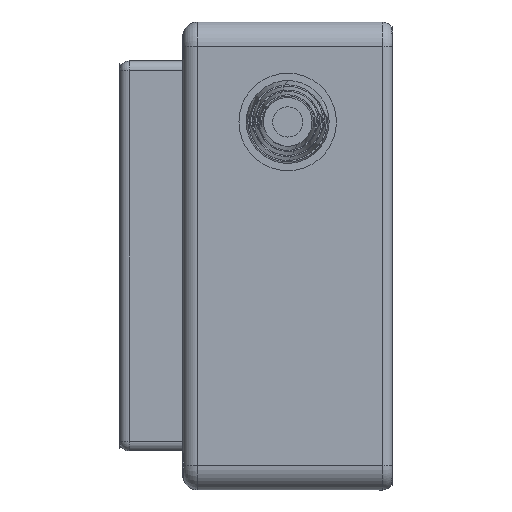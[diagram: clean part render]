
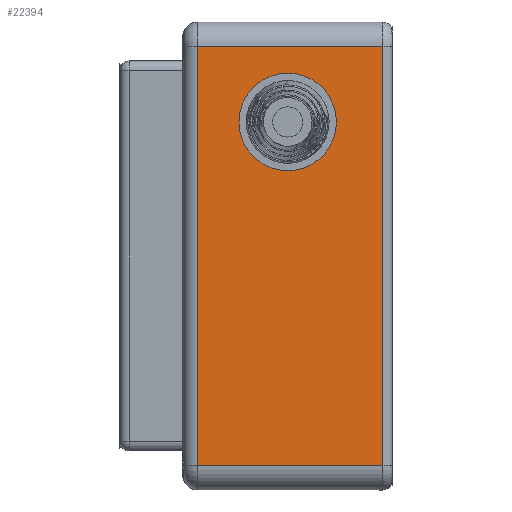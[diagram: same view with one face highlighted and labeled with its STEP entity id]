
A CAD part, left-side view. The second image highlights one B-rep face of the part: STEP entity #22394.
In plain terms, the highlighted planar face has unit normal (-1, 0, 0).
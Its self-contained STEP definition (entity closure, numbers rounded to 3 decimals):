
#148 = AXIS2_PLACEMENT_3D ( 'NONE', #20468, #22417, #2828 ) ;
#235 = CARTESIAN_POINT ( 'NONE',  ( -65., 0., -43. ) ) ;
#827 = VECTOR ( 'NONE', #5529, 1000. ) ;
#1250 = CIRCLE ( 'NONE', #13751, 10. ) ;
#2080 = CARTESIAN_POINT ( 'NONE',  ( -65., 40., -43. ) ) ;
#2453 = ORIENTED_EDGE ( 'NONE', *, *, #14186, .T. ) ;
#2794 = CARTESIAN_POINT ( 'NONE',  ( -65., 0., 48. ) ) ;
#2828 = DIRECTION ( 'NONE',  ( 0., 0., -1. ) ) ;
#3794 = DIRECTION ( 'NONE',  ( 0., 0., -1. ) ) ;
#4022 = DIRECTION ( 'NONE',  ( 0., -1., 0. ) ) ;
#4517 = LINE ( 'NONE', #2794, #19660 ) ;
#4644 = DIRECTION ( 'NONE',  ( 0., 0., 1. ) ) ;
#4793 = ORIENTED_EDGE ( 'NONE', *, *, #18641, .T. ) ;
#5302 = LINE ( 'NONE', #10366, #17380 ) ;
#5434 = EDGE_LOOP ( 'NONE', ( #7773, #17563 ) ) ;
#5529 = DIRECTION ( 'NONE',  ( 0., 1., 0. ) ) ;
#6524 = EDGE_CURVE ( 'NONE', #6692, #12814, #1250, .T. ) ;
#6615 = EDGE_CURVE ( 'NONE', #12814, #6692, #14133, .T. ) ;
#6692 = VERTEX_POINT ( 'NONE', #15267 ) ;
#6792 = DIRECTION ( 'NONE',  ( 1., 0., 0. ) ) ;
#6900 = EDGE_LOOP ( 'NONE', ( #4793, #2453, #21683, #17988 ) ) ;
#6912 = DIRECTION ( 'NONE',  ( 0., 0., -1. ) ) ;
#7773 = ORIENTED_EDGE ( 'NONE', *, *, #6615, .F. ) ;
#8767 = CARTESIAN_POINT ( 'NONE',  ( -65., 40., 43. ) ) ;
#8977 = VERTEX_POINT ( 'NONE', #235 ) ;
#9002 = CARTESIAN_POINT ( 'NONE',  ( -65., 0., 43. ) ) ;
#9286 = AXIS2_PLACEMENT_3D ( 'NONE', #20968, #6792, #6912 ) ;
#10366 = CARTESIAN_POINT ( 'NONE',  ( -65., 38., 48. ) ) ;
#10482 = PLANE ( 'NONE',  #9286 ) ;
#10836 = LINE ( 'NONE', #2080, #18883 ) ;
#12073 = VERTEX_POINT ( 'NONE', #14119 ) ;
#12105 = FACE_OUTER_BOUND ( 'NONE', #6900, .T. ) ;
#12215 = FACE_BOUND ( 'NONE', #5434, .T. ) ;
#12814 = VERTEX_POINT ( 'NONE', #18772 ) ;
#13751 = AXIS2_PLACEMENT_3D ( 'NONE', #14488, #21959, #16419 ) ;
#14119 = CARTESIAN_POINT ( 'NONE',  ( -65., 38., 43. ) ) ;
#14133 = CIRCLE ( 'NONE', #148, 10. ) ;
#14186 = EDGE_CURVE ( 'NONE', #22194, #8977, #10836, .T. ) ;
#14488 = CARTESIAN_POINT ( 'NONE',  ( -65., 18.5, -27.5 ) ) ;
#15267 = CARTESIAN_POINT ( 'NONE',  ( -65., 18.5, -17.5 ) ) ;
#16419 = DIRECTION ( 'NONE',  ( 0., 0., -1. ) ) ;
#16958 = EDGE_CURVE ( 'NONE', #8977, #18651, #4517, .T. ) ;
#17380 = VECTOR ( 'NONE', #3794, 1000. ) ;
#17563 = ORIENTED_EDGE ( 'NONE', *, *, #6524, .F. ) ;
#17716 = LINE ( 'NONE', #8767, #827 ) ;
#17988 = ORIENTED_EDGE ( 'NONE', *, *, #18613, .T. ) ;
#18613 = EDGE_CURVE ( 'NONE', #18651, #12073, #17716, .T. ) ;
#18641 = EDGE_CURVE ( 'NONE', #12073, #22194, #5302, .T. ) ;
#18651 = VERTEX_POINT ( 'NONE', #9002 ) ;
#18772 = CARTESIAN_POINT ( 'NONE',  ( -65., 18.5, -37.5 ) ) ;
#18883 = VECTOR ( 'NONE', #4022, 1000. ) ;
#19660 = VECTOR ( 'NONE', #4644, 1000. ) ;
#20172 = CARTESIAN_POINT ( 'NONE',  ( -65., 38., -43. ) ) ;
#20468 = CARTESIAN_POINT ( 'NONE',  ( -65., 18.5, -27.5 ) ) ;
#20968 = CARTESIAN_POINT ( 'NONE',  ( -65., 40., 48. ) ) ;
#21683 = ORIENTED_EDGE ( 'NONE', *, *, #16958, .T. ) ;
#21959 = DIRECTION ( 'NONE',  ( -1., 0., 0. ) ) ;
#22194 = VERTEX_POINT ( 'NONE', #20172 ) ;
#22394 = ADVANCED_FACE ( 'NONE', ( #12215, #12105 ), #10482, .F. ) ;
#22417 = DIRECTION ( 'NONE',  ( -1., 0., 0. ) ) ;
